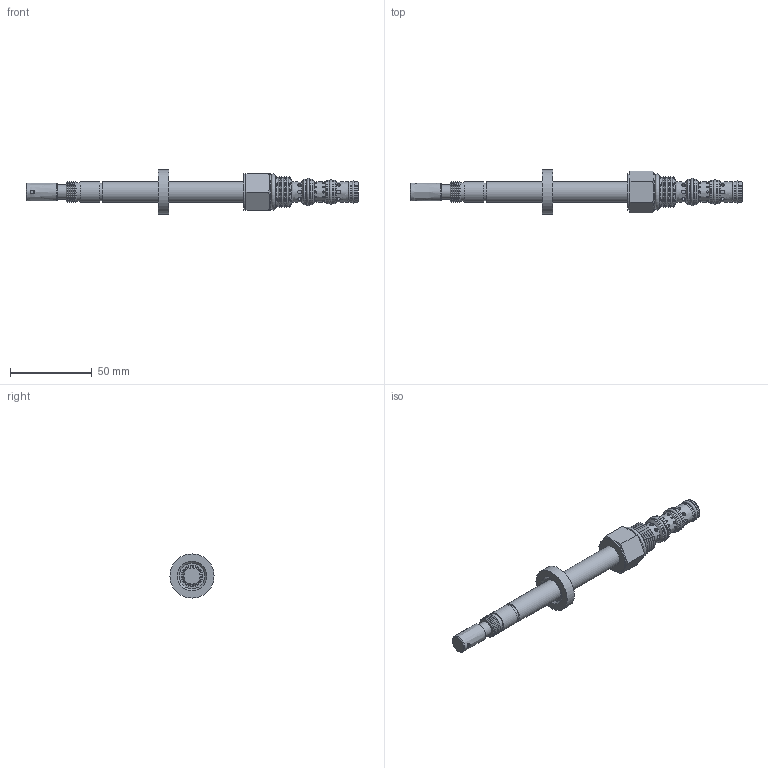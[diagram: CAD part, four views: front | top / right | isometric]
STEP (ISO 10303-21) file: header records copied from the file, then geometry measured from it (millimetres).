
FILE_DESCRIPTION((''),'2;1');
FILE_NAME('U:\sat files\PQS4N0P.stp','2009-09-09T09:02:00',('Dan'),(''),'Autodesk Inventor 2009','Autodesk Inventor 2009','');
FILE_SCHEMA(('AUTOMOTIVE_DESIGN { 1 0 10303 214 1 1 1 1 }'));
Length unit declared in the file: inch
Products named in the file (15): PQS4N0P; PQS4N0P1; PQS4N0P2; PQS4N0P3; PQS4N0P4; PQS4N0P5; PQS4N0P6; PQS4N0P7; PQS4N0P8; PQS4N0P9; PQS4N0P10; PQS4N0P11; PQS4N0P12; PQS4N0P13; PQS4N0P14
Assembly tree (14 placements, depth 2):
  PQS4N0P
    PQS4N0P1
    PQS4N0P2
    PQS4N0P3
    PQS4N0P4
    PQS4N0P5
    PQS4N0P6
    PQS4N0P7
    PQS4N0P8
    PQS4N0P9
    PQS4N0P10
    PQS4N0P11
    PQS4N0P12
    PQS4N0P13
    PQS4N0P14
Bounding box: 203.19 x 26.99 x 26.99 mm (x, y, z)
Volume: 33919.7 mm3; surface area: 15018.5 mm2
Topology: 14 solids, 14 shells, 281 faces, 508 edges, 299 vertices
Faces by surface type: bspline 216, cylinder 42, cone 15, plane 8
Full cylindrical faces by diameter (mm): 13.081 x1, 26.988 x1
Entity records: 11432 total; most frequent: CARTESIAN_POINT 7224, ORIENTED_EDGE 616, DIRECTION 568, EDGE_LOOP 535, EDGE_CURVE 308, VERTEX_POINT 285, AXIS2_PLACEMENT_3D 281, FACE_OUTER_BOUND 281
